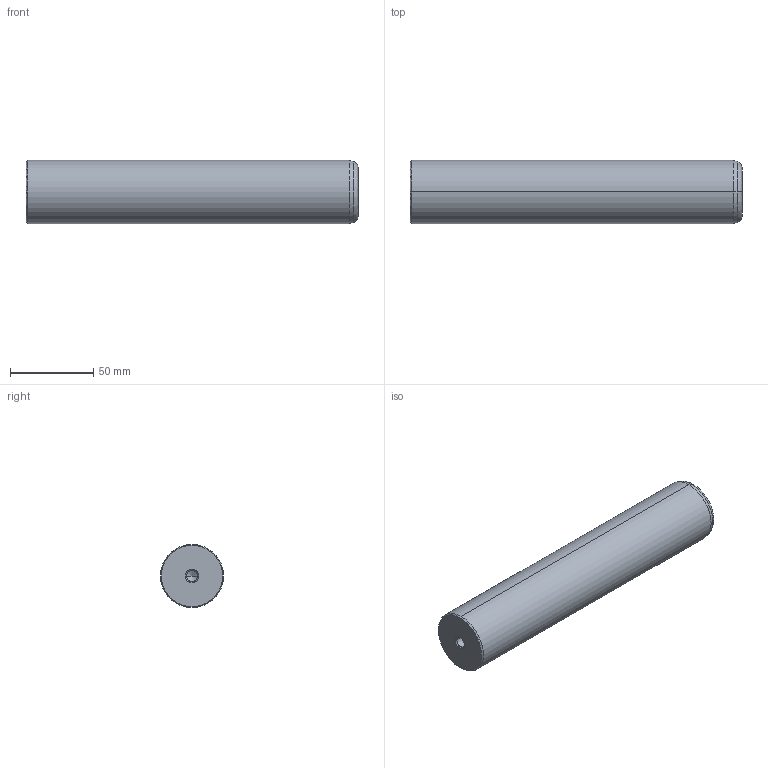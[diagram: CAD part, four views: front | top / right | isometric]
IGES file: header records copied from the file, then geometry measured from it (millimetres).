
Start section: START RECORD GO HERE.
Global section: file name: 720-38x200.igs; native system: DASSAULT SYSTEMES CATIA V5 R20 - www.3ds.com; preprocessor: CATIA Version 5 Release 20 ; author: Utente; organization: NB04-ASUS; date: 20210101.130634; units: millimetre
Bounding box: 200 x 38 x 38 mm (x, y, z)
Surface area: 26830.8 mm2 (no closed solid volume)
Topology: 0 solids, 0 shells, 22 faces, 108 edges, 104 vertices
Faces by surface type: revolution 20, plane 2
